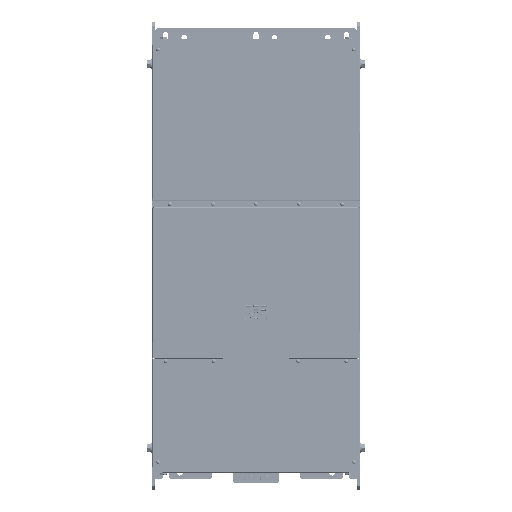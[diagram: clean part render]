
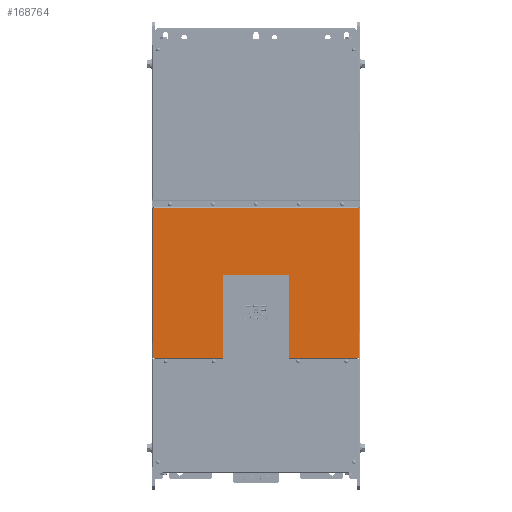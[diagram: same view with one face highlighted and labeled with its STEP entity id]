
A CAD part, top view. The second image highlights one B-rep face of the part: STEP entity #168764.
In plain terms, the highlighted planar face has unit normal (0, 0, 1).
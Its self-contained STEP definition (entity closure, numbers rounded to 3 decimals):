
#12273=DIRECTION('',(0.,1.,0.));
#12274=VECTOR('',#12273,0.037);
#12275=CARTESIAN_POINT('',(-251.4,-254.437,480.));
#12276=LINE('',#12275,#12274);
#12277=DIRECTION('',(1.,0.,0.));
#12278=VECTOR('',#12277,5.);
#12279=CARTESIAN_POINT('',(-256.4,-254.4,480.));
#12280=LINE('',#12279,#12278);
#12281=CARTESIAN_POINT('',(-257.374,120.374,480.));
#12282=DIRECTION('',(0.,0.,1.));
#12283=DIRECTION('',(0.487,-0.874,0.));
#12284=AXIS2_PLACEMENT_3D('',#12281,#12282,#12283);
#12286=CARTESIAN_POINT('',(-257.374,120.374,480.));
#12287=DIRECTION('',(0.,0.,1.));
#12288=DIRECTION('',(0.707,-0.707,0.));
#12289=AXIS2_PLACEMENT_3D('',#12286,#12287,#12288);
#12291=CARTESIAN_POINT('',(257.374,120.374,480.));
#12292=DIRECTION('',(0.,0.,1.));
#12293=DIRECTION('',(-0.874,-0.487,0.));
#12294=AXIS2_PLACEMENT_3D('',#12291,#12292,#12293);
#12296=CARTESIAN_POINT('',(257.374,120.374,480.));
#12297=DIRECTION('',(0.,0.,1.));
#12298=DIRECTION('',(-0.707,-0.707,0.));
#12299=AXIS2_PLACEMENT_3D('',#12296,#12297,#12298);
#12301=DIRECTION('',(-1.,0.,0.));
#12302=VECTOR('',#12301,5.);
#12303=CARTESIAN_POINT('',(256.4,-254.4,480.));
#12304=LINE('',#12303,#12302);
#12305=DIRECTION('',(0.,1.,0.));
#12306=VECTOR('',#12305,0.037);
#12307=CARTESIAN_POINT('',(251.4,-254.437,480.));
#12308=LINE('',#12307,#12306);
#12313=DIRECTION('',(0.,-1.,0.));
#12314=VECTOR('',#12313,207.737);
#12315=CARTESIAN_POINT('',(81.5,-46.7,480.));
#12316=LINE('',#12315,#12314);
#12938=DIRECTION('',(-1.,0.,0.));
#12939=VECTOR('',#12938,169.9);
#12940=CARTESIAN_POINT('',(251.4,-254.437,480.));
#12941=LINE('',#12940,#12939);
#47002=DIRECTION('',(0.,-1.,0.));
#47003=VECTOR('',#47002,373.027);
#47004=CARTESIAN_POINT('',(256.4,118.627,480.));
#47005=LINE('',#47004,#47003);
#47038=DIRECTION('',(1.,0.,0.));
#47039=VECTOR('',#47038,511.253);
#47040=CARTESIAN_POINT('',(-255.627,119.4,480.));
#47041=LINE('',#47040,#47039);
#47094=DIRECTION('',(0.,1.,0.));
#47095=VECTOR('',#47094,373.027);
#47096=CARTESIAN_POINT('',(-256.4,-254.4,480.));
#47097=LINE('',#47096,#47095);
#48413=DIRECTION('',(-1.,0.,0.));
#48414=VECTOR('',#48413,169.9);
#48415=CARTESIAN_POINT('',(-81.5,-254.437,480.));
#48416=LINE('',#48415,#48414);
#48426=DIRECTION('',(0.,1.,0.));
#48427=VECTOR('',#48426,207.737);
#48428=CARTESIAN_POINT('',(-81.5,-254.437,480.));
#48429=LINE('',#48428,#48427);
#69227=DIRECTION('',(1.,0.,0.));
#69228=VECTOR('',#69227,163.);
#69229=CARTESIAN_POINT('',(-81.5,-46.7,480.));
#69230=LINE('',#69229,#69228);
#150307=CARTESIAN_POINT('',(-251.4,-254.437,480.));
#150308=CARTESIAN_POINT('',(-251.4,-254.4,480.));
#150309=VERTEX_POINT('',#150307);
#150310=VERTEX_POINT('',#150308);
#150311=CARTESIAN_POINT('',(251.4,-254.437,480.));
#150312=CARTESIAN_POINT('',(251.4,-254.4,480.));
#150313=VERTEX_POINT('',#150311);
#150314=VERTEX_POINT('',#150312);
#150379=CARTESIAN_POINT('',(256.4,-254.4,480.));
#150380=VERTEX_POINT('',#150379);
#150381=CARTESIAN_POINT('',(-256.4,-254.4,480.));
#150382=VERTEX_POINT('',#150381);
#150467=CARTESIAN_POINT('',(-255.959,118.959,480.));
#150468=CARTESIAN_POINT('',(-255.627,119.4,480.));
#150469=VERTEX_POINT('',#150467);
#150470=VERTEX_POINT('',#150468);
#150471=CARTESIAN_POINT('',(-256.4,118.627,480.));
#150472=VERTEX_POINT('',#150471);
#150499=CARTESIAN_POINT('',(255.959,118.959,480.));
#150500=CARTESIAN_POINT('',(256.4,118.627,480.));
#150501=VERTEX_POINT('',#150499);
#150502=VERTEX_POINT('',#150500);
#150503=CARTESIAN_POINT('',(255.627,119.4,480.));
#150504=VERTEX_POINT('',#150503);
#150535=CARTESIAN_POINT('',(-81.5,-254.437,480.));
#150536=VERTEX_POINT('',#150535);
#150537=CARTESIAN_POINT('',(81.5,-254.437,480.));
#150538=VERTEX_POINT('',#150537);
#155994=CARTESIAN_POINT('',(-81.5,-46.7,480.));
#155996=VERTEX_POINT('',#155994);
#156003=CARTESIAN_POINT('',(81.5,-46.7,480.));
#156005=VERTEX_POINT('',#156003);
#168727=CARTESIAN_POINT('',(0.,-165.,480.));
#168728=DIRECTION('',(0.,0.,1.));
#168729=DIRECTION('',(1.,0.,0.));
#168730=AXIS2_PLACEMENT_3D('',#168727,#168728,#168729);
#168731=PLANE('',#168730);
#168733=ORIENTED_EDGE('',*,*,#168732,.F.);
#168735=ORIENTED_EDGE('',*,*,#168734,.F.);
#168737=ORIENTED_EDGE('',*,*,#168736,.F.);
#168739=ORIENTED_EDGE('',*,*,#168738,.T.);
#168740=ORIENTED_EDGE('',*,*,#168707,.T.);
#168741=ORIENTED_EDGE('',*,*,#168612,.F.);
#168743=ORIENTED_EDGE('',*,*,#168742,.T.);
#168745=ORIENTED_EDGE('',*,*,#168744,.T.);
#168747=ORIENTED_EDGE('',*,*,#168746,.T.);
#168749=ORIENTED_EDGE('',*,*,#168748,.T.);
#168751=ORIENTED_EDGE('',*,*,#168750,.T.);
#168753=ORIENTED_EDGE('',*,*,#168752,.T.);
#168755=ORIENTED_EDGE('',*,*,#168754,.T.);
#168757=ORIENTED_EDGE('',*,*,#168756,.T.);
#168759=ORIENTED_EDGE('',*,*,#168758,.F.);
#168761=ORIENTED_EDGE('',*,*,#168760,.T.);
#168762=EDGE_LOOP('',(#168733,#168735,#168737,#168739,#168740,#168741,#168743,
#168745,#168747,#168749,#168751,#168753,#168755,#168757,#168759,#168761));
#168763=FACE_OUTER_BOUND('',#168762,.F.);
#12285=CIRCLE('',#12284,2.);
#12290=CIRCLE('',#12289,2.);
#12295=CIRCLE('',#12294,2.);
#12300=CIRCLE('',#12299,2.);
#168612=EDGE_CURVE('',#150382,#150310,#12280,.T.);
#168707=EDGE_CURVE('',#150309,#150310,#12276,.T.);
#168732=EDGE_CURVE('',#156005,#150538,#12316,.T.);
#168734=EDGE_CURVE('',#155996,#156005,#69230,.T.);
#168736=EDGE_CURVE('',#150536,#155996,#48429,.T.);
#168738=EDGE_CURVE('',#150536,#150309,#48416,.T.);
#168742=EDGE_CURVE('',#150382,#150472,#47097,.T.);
#168744=EDGE_CURVE('',#150472,#150469,#12285,.T.);
#168746=EDGE_CURVE('',#150469,#150470,#12290,.T.);
#168748=EDGE_CURVE('',#150470,#150504,#47041,.T.);
#168750=EDGE_CURVE('',#150504,#150501,#12295,.T.);
#168752=EDGE_CURVE('',#150501,#150502,#12300,.T.);
#168754=EDGE_CURVE('',#150502,#150380,#47005,.T.);
#168756=EDGE_CURVE('',#150380,#150314,#12304,.T.);
#168758=EDGE_CURVE('',#150313,#150314,#12308,.T.);
#168760=EDGE_CURVE('',#150313,#150538,#12941,.T.);
#168764=ADVANCED_FACE('',(#168763),#168731,.T.);
